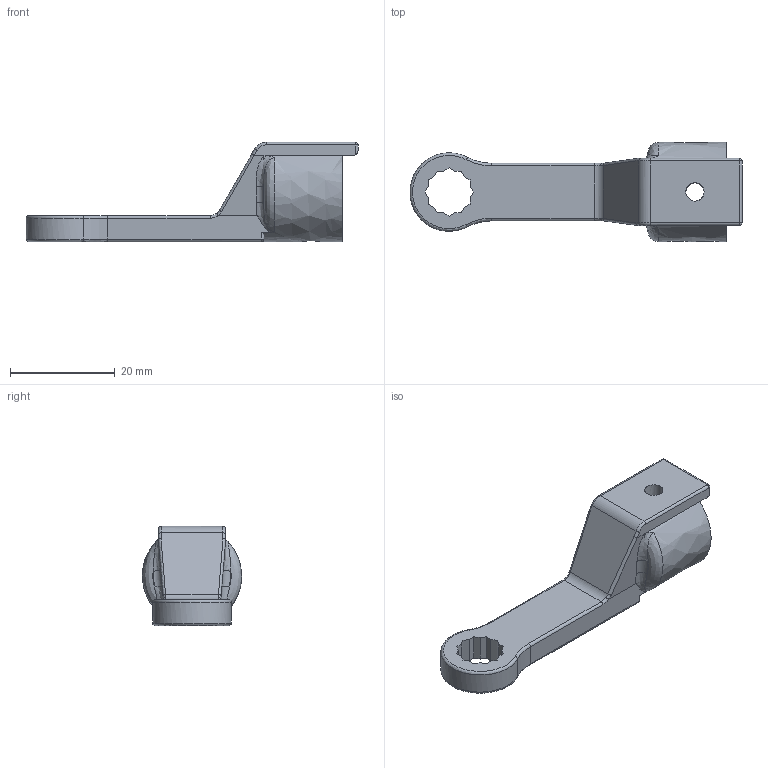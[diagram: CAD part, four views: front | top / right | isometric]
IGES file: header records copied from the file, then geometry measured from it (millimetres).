
Global section: file name: RH12DX8; native system: Autodesk Inventor 2016; preprocessor: unknown; author: Q532; date: 20151110.160500; units: millimetre
Bounding box: 63.5 x 19 x 19 mm (x, y, z)
Volume: 5816.1 mm3; surface area: 4005.3 mm2
Topology: 1 solids, 1 shells, 99 faces, 264 edges, 163 vertices
Faces by surface type: bspline 99
